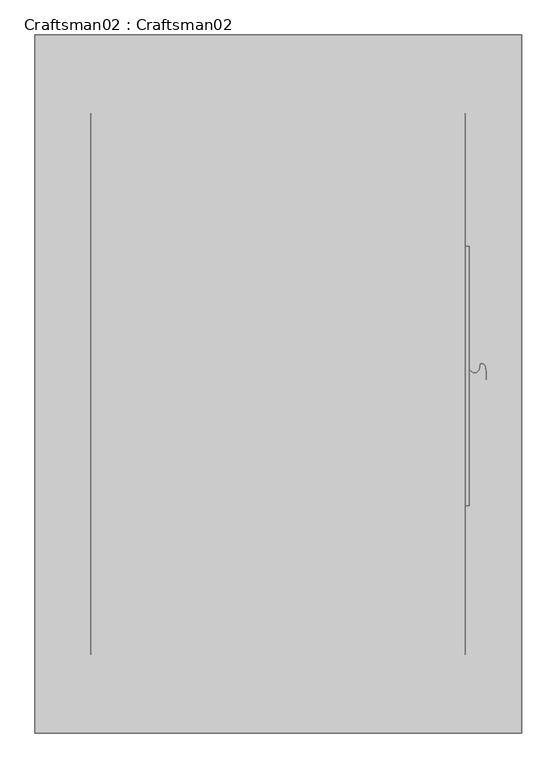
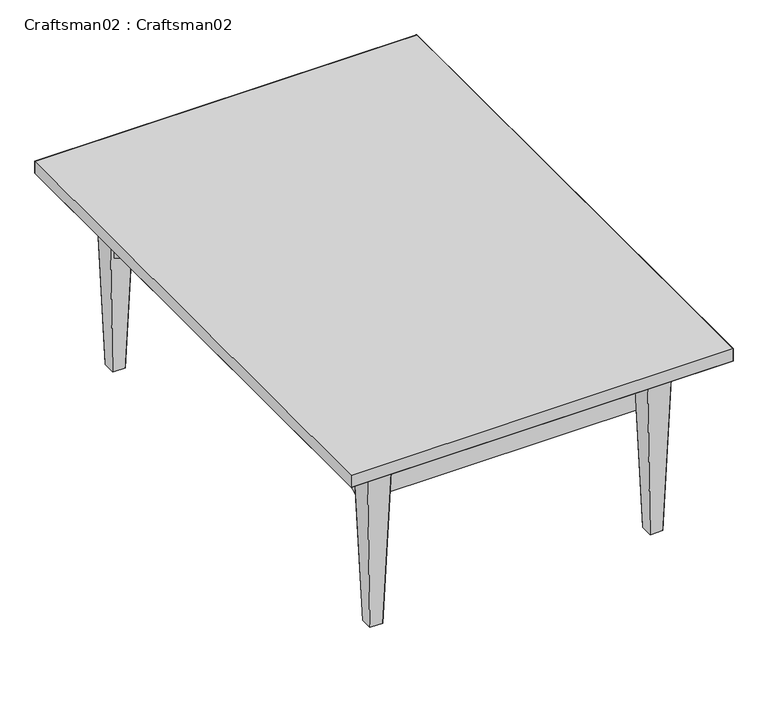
"""IFC4 building model written with IfcOpenShell, lengths in millimetres: furniture geometry, Craftsman02 : Craftsman02."""

from ifc_helpers import new_model, si_unit, origin, place, context, project, spatial, triangles, source, transform, mapped, element, save


def craftsman02_craftsman02_3f7232b6(model_context):
    return source(origin(), model_context, "Body", "Tessellation", [
        triangles([(704.85, 550.0985084, 334.0741579), (711.1999758, 554.4492602, 332.1371032), (720.7249758, 549.2750121, 330.2000121), (720.7249758, 550.0985084, 334.0741579), (727.0750242, 541.3969319, 337.94834), (722.3125242, 539.7500121, 330.2000121), (730.2499758, 544.2974453, 336.6569581), (731.8375242, 552.9989854, 332.782776), (731.8375242, 552.45, 330.2000121), (704.85, 552.4265639, 337.2784318), (715.9624758, 554.4492602, 332.1371032), (715.9624758, 555.613288, 333.739222), (722.3125242, 541.3969319, 337.94834), (730.2499758, 548.17755, 341.9974025), (731.8375242, 554.5510345, 334.9189828), (711.1999758, 557.3282996, 334.7293868), (711.1999758, 555.613288, 333.739222), (704.85, 555.8566235, 339.2588342), (715.9624758, 557.3282996, 334.7293868), (720.7249758, 552.4265639, 337.2784318), (727.0750242, 546.0530431, 344.3569242), (722.3125242, 546.0530431, 344.3569242), (727.0750242, 552.9132348, 348.3176199), (704.85, 559.7956272, 339.6728351), (720.7249758, 555.8566235, 339.2588342), (722.3125242, 552.9132348, 348.3176199), (720.7249758, 559.7956272, 339.6728351), (727.0750242, 560.7912423, 349.145658), (731.8375242, 556.8377772, 336.2392147), (730.2499758, 553.8943522, 345.2980004), (711.1999758, 559.2978378, 334.9364236), (715.9624758, 559.2978378, 334.9364236), (722.3125242, 560.7912423, 349.145658), (720.7249758, 563.5625121, 338.4488909), (727.0750242, 568.3250121, 346.6977696), (730.2499758, 560.4593948, 345.9880383), (731.8375242, 559.4637797, 336.5152153), (731.8375242, 561.975, 335.6992404), (704.85, 563.5625121, 338.4488909), (715.9624758, 561.1812621, 334.3244697), (711.1999758, 561.1812621, 334.3244697), (720.7249758, 566.5058644, 335.7986529), (722.3125242, 568.3250121, 346.6977696), (730.2499758, 566.7375, 343.9481555), (704.85, 566.5058644, 335.7986529), (711.1999758, 562.6529746, 332.9993325), (715.9624758, 562.6529746, 332.9993325), (715.9624758, 563.4584487, 331.190177), (722.3125242, 577.4336858, 334.1607079), (727.0750242, 574.2117531, 341.3972938), (722.3125242, 574.2117531, 341.3972938), (730.2499758, 571.6431599, 339.5310923), (731.8375242, 563.9372349, 333.9324151), (711.1999758, 563.4584487, 329.2098109), (704.85, 568.1168853, 332.1803418), (711.1999758, 563.4584487, 331.190177), (720.7249758, 568.1168853, 332.1803418), (727.0750242, 577.4336858, 326.23928), (727.0750242, 577.4336858, 334.1607079), (730.2499758, 574.3280614, 333.5006101), (731.8375242, 565.0112609, 331.520244), (704.85, 568.1168853, 328.2196461), (715.9624758, 563.4584487, 329.2098109), (715.9624758, 562.6529746, 327.4006917), (720.7249758, 566.5058644, 324.601335), (722.3125242, 577.4336858, 326.23928), (720.7249758, 568.1168853, 328.2196461), (722.3125242, 574.2117531, 319.0026941), (727.0750242, 574.2117531, 319.0026941), (730.2499758, 574.3280614, 326.8994142), (730.2499758, 571.6431599, 320.8688956), (731.8375242, 565.0112609, 328.8797439), (731.8375242, 563.9372349, 326.4675728), (704.85, 566.5058644, 324.601335), (711.1999758, 562.6529746, 327.4006917), (720.7249758, 563.5625121, 321.951097), (730.2499758, 566.7375, 316.4518687), (731.8375242, 561.975, 324.7007475), (711.1999758, 559.2978378, 325.4636006), (704.85, 559.7956272, 320.7271892), (704.85, 563.5625121, 321.951097), (715.9624758, 561.1812621, 326.0755546), (711.1999758, 561.1812621, 326.0755546), (715.9624758, 559.2978378, 325.4636006), (722.3125242, 560.7912423, 311.2543662), (727.0750242, 568.3250121, 313.7022182), (722.3125242, 568.3250121, 313.7022182), (711.1999758, 557.3282996, 325.6706011), (704.85, 555.8566235, 321.1411901), (720.7249758, 559.7956272, 320.7271892), (722.3125242, 552.9132348, 312.082368), (727.0750242, 560.7912423, 311.2543662), (730.2499758, 560.4593948, 314.4119496), (730.2499758, 553.8943522, 315.1019875), (731.8375242, 559.4637797, 323.8847726), (715.9624758, 557.3282996, 325.6706011), (720.7249758, 555.8566235, 321.1411901), (715.9624758, 555.613288, 326.6607659), (722.3125242, 546.0530431, 316.0431001), (727.0750242, 552.9132348, 312.082368), (727.0750242, 546.0530431, 316.0431001), (731.8375242, 556.8377772, 324.1607732), (711.1999758, 554.4492602, 328.262921), (704.85, 552.4265639, 323.1215561), (704.85, 550.0985084, 326.32583), (711.1999758, 555.613288, 326.6607659), (720.7249758, 552.4265639, 323.1215561), (715.9624758, 554.4492602, 328.262921), (722.3125242, 541.3969319, 322.4516479), (720.7249758, 550.0985084, 326.32583), (730.2499758, 548.17755, 318.4025854), (730.2499758, 544.2974453, 323.7430661), (731.8375242, 554.5510345, 325.4810414), (731.8375242, 558.8000121, 330.2000121), (711.1999758, 554.0375121, 330.2000121), (704.85, 549.2750121, 330.2000121), (715.9624758, 554.0375121, 330.2000121), (727.0750242, 539.7500121, 330.2000121), (730.2499758, 542.925, 330.2000121), (727.0750242, 541.3969319, 322.4516479), (731.8375242, 552.9989854, 327.6172119)], [[1, 115, 2], [1, 116, 115], [115, 117, 11], [11, 2, 115], [11, 3, 4], [11, 117, 3], [4, 6, 13], [4, 3, 6], [6, 118, 5], [5, 13, 6], [5, 119, 7], [5, 118, 119], [7, 9, 8], [7, 119, 9], [114, 8, 9], [10, 2, 17], [10, 1, 2], [2, 11, 12], [12, 17, 2], [12, 4, 20], [12, 11, 4], [20, 13, 22], [20, 4, 13], [13, 5, 21], [21, 22, 13], [21, 7, 14], [21, 5, 7], [14, 8, 15], [14, 7, 8], [114, 15, 8], [18, 17, 16], [18, 10, 17], [17, 12, 19], [19, 16, 17], [19, 20, 25], [19, 12, 20], [25, 22, 26], [25, 20, 22], [22, 21, 23], [23, 26, 22], [23, 14, 30], [23, 21, 14], [29, 14, 15], [29, 30, 14], [114, 29, 15], [24, 16, 31], [24, 18, 16], [16, 19, 32], [32, 31, 16], [32, 25, 27], [32, 19, 25], [25, 26, 33], [33, 27, 25], [26, 23, 28], [28, 33, 26], [36, 23, 30], [36, 28, 23], [36, 29, 37], [36, 30, 29], [114, 37, 29], [39, 31, 41], [39, 24, 31], [31, 32, 40], [40, 41, 31], [40, 27, 34], [40, 32, 27], [34, 33, 43], [34, 27, 33], [33, 28, 35], [35, 43, 33], [35, 36, 44], [35, 28, 36], [38, 36, 37], [38, 44, 36], [114, 38, 37], [45, 41, 46], [45, 39, 41], [41, 40, 47], [47, 46, 41], [47, 34, 42], [47, 40, 34], [42, 43, 51], [42, 34, 43], [43, 35, 50], [50, 51, 43], [50, 44, 52], [50, 35, 44], [52, 38, 53], [52, 44, 38], [114, 53, 38], [55, 46, 56], [55, 45, 46], [46, 47, 48], [48, 56, 46], [57, 47, 42], [57, 48, 47], [49, 42, 51], [49, 57, 42], [51, 50, 59], [59, 49, 51], [59, 52, 60], [59, 50, 52], [60, 53, 61], [60, 52, 53], [114, 61, 53], [62, 56, 54], [62, 55, 56], [56, 48, 63], [63, 54, 56], [67, 48, 57], [67, 63, 48], [67, 49, 66], [67, 57, 49], [49, 59, 58], [58, 66, 49], [58, 60, 70], [58, 59, 60], [70, 61, 72], [70, 60, 61], [114, 72, 61], [74, 54, 75], [74, 62, 54], [54, 63, 64], [64, 75, 54], [64, 67, 65], [64, 63, 67], [65, 66, 68], [65, 67, 66], [66, 58, 69], [69, 68, 66], [71, 58, 70], [71, 69, 58], [73, 70, 72], [73, 71, 70], [114, 73, 72], [83, 74, 75], [83, 81, 74], [75, 64, 82], [82, 83, 75], [82, 65, 76], [82, 64, 65], [87, 65, 68], [87, 76, 65], [68, 69, 86], [86, 87, 68], [86, 71, 77], [86, 69, 71], [77, 73, 78], [77, 71, 73], [114, 78, 73], [80, 83, 79], [80, 81, 83], [83, 82, 84], [84, 79, 83], [90, 82, 76], [90, 84, 82], [85, 76, 87], [85, 90, 76], [87, 86, 92], [92, 85, 87], [93, 86, 77], [93, 92, 86], [93, 78, 95], [93, 77, 78], [114, 95, 78], [88, 80, 79], [88, 89, 80], [79, 84, 96], [96, 88, 79], [96, 90, 97], [96, 84, 90], [90, 85, 91], [91, 97, 90], [85, 92, 100], [100, 91, 85], [100, 93, 94], [100, 92, 93], [102, 93, 95], [102, 94, 93], [114, 102, 95], [104, 88, 106], [104, 89, 88], [88, 96, 98], [98, 106, 88], [98, 97, 107], [98, 96, 97], [99, 97, 91], [99, 107, 97], [91, 100, 101], [101, 99, 91], [101, 94, 111], [101, 100, 94], [111, 102, 113], [111, 94, 102], [114, 113, 102], [103, 104, 106], [103, 105, 104], [106, 98, 108], [108, 103, 106], [108, 107, 110], [108, 98, 107], [109, 107, 99], [109, 110, 107], [99, 101, 120], [120, 109, 99], [112, 101, 111], [112, 120, 101], [112, 113, 121], [112, 111, 113], [114, 121, 113], [116, 103, 115], [116, 105, 103], [103, 108, 117], [117, 115, 103], [3, 108, 110], [3, 117, 108], [6, 110, 109], [6, 3, 110], [109, 120, 118], [118, 6, 109], [119, 120, 112], [119, 118, 120], [119, 121, 9], [119, 112, 121], [114, 9, 121]], closed=False),
        triangles([(787.3999758, 0.0, 406.4000121), (787.3999758, 1092.1999758, 406.4000121), (787.3999758, 1092.1999758, 381.0), (787.3999758, 0.0, 381.0), (25.4000008, 1092.1999758, 406.4000121), (25.4000008, 1092.1999758, 381.0), (25.4000008, 0.0, 381.0), (25.4000008, 0.0, 406.4000121), (704.85, 355.5999879, 301.6249939), (704.85, 762.0, 301.6249939), (704.85, 762.0, 361.95), (704.85, 355.5999879, 361.95)], [[3, 2, 1], [1, 4, 3], [6, 5, 8], [8, 7, 6], [10, 11, 9], [12, 9, 11]], closed=False),
        triangles([(698.5000242, 126.999997, 381.0), (698.5000242, 762.0, 361.95), (698.5000242, 327.0249879, 279.4000061), (698.5000242, 355.5999879, 361.95), (698.5000242, 355.5999879, 301.6249939), (698.5000242, 762.0, 301.6249939), (698.5000242, 790.575, 279.4000061), (698.5000242, 969.7125395, 245.6233977), (698.5000242, 946.1500242, 260.3500061), (698.5000242, 914.4, 269.8750061), (698.5000242, 866.775, 276.225), (698.5000242, 965.2000242, 381.0), (112.712497, 250.8250061, 276.225), (112.712497, 866.775, 276.225), (112.712497, 914.4, 269.8750061), (112.712497, 946.1500242, 260.3500061), (112.712497, 969.7125395, 245.6233977), (112.712497, 965.2000242, 381.0), (112.712497, 126.999997, 381.0), (112.712497, 790.575, 279.4000061), (112.712497, 327.0249879, 279.4000061), (698.5000242, 146.049997, 257.175), (698.5000242, 122.4874454, 245.6233977), (112.712497, 122.4874454, 245.6233977), (698.5000242, 250.8250061, 276.225), (698.5000242, 203.2000061, 271.4625), (112.712497, 203.2000061, 271.4625), (112.712497, 146.049997, 257.175)], [[2, 12, 1], [1, 4, 2], [6, 5, 3], [3, 7, 6], [3, 4, 1], [3, 5, 4], [1, 25, 3], [2, 6, 12], [7, 12, 6], [11, 12, 7], [12, 9, 8], [12, 10, 9], [12, 11, 10], [19, 13, 21], [14, 18, 20], [18, 14, 15], [18, 15, 16], [18, 16, 17], [21, 18, 19], [21, 20, 18], [1, 23, 22], [19, 24, 28], [19, 27, 13], [1, 26, 25], [1, 22, 26], [19, 28, 27]], closed=False),
        triangles([(711.1999758, 126.999997, 381.0), (698.5000242, 114.3, 0.0), (698.5000242, 88.899997, 0.0), (711.1999758, 76.2, 381.0), (698.5000242, 977.8999758, 0.0), (698.5000242, 1003.3000242, 0.0), (711.1999758, 1015.9999758, 381.0), (711.1999758, 965.2000242, 381.0), (673.0999758, 977.8999758, 0.0), (673.0999758, 1003.3000242, 0.0), (660.4000242, 1015.9999758, 381.0), (660.4000242, 965.2000242, 381.0), (660.4000242, 126.999997, 381.0), (673.0999758, 114.3, 0.0), (673.0999758, 88.899997, 0.0), (660.4000242, 76.2, 381.0), (152.4, 126.999997, 381.0), (139.700003, 114.3, 0.0), (139.700003, 88.899997, 0.0), (152.4, 76.2, 381.0), (139.700003, 977.8999758, 0.0), (139.700003, 1003.3000242, 0.0), (152.4, 1015.9999758, 381.0), (152.4, 965.2000242, 381.0), (114.3, 977.8999758, 0.0), (114.3, 1003.3000242, 0.0), (101.600003, 1015.9999758, 381.0), (101.600003, 965.2000242, 381.0), (101.600003, 126.999997, 381.0), (114.3, 114.3, 0.0), (114.3, 88.899997, 0.0), (101.600003, 76.2, 381.0)], [[2, 1, 4], [4, 3, 2], [5, 6, 8], [7, 8, 6], [9, 10, 12], [11, 12, 10], [14, 13, 16], [16, 15, 14], [18, 17, 20], [20, 19, 18], [21, 22, 24], [23, 24, 22], [25, 26, 28], [27, 28, 26], [30, 29, 32], [32, 31, 30]], closed=False),
        triangles([(787.3999758, 0.0, 406.4000121), (787.3999758, 0.0, 381.0), (25.4000008, 0.0, 381.0), (25.4000008, 0.0, 406.4000121), (787.3999758, 1092.1999758, 406.4000121), (25.4000008, 1092.1999758, 406.4000121), (25.4000008, 1092.1999758, 381.0), (787.3999758, 1092.1999758, 381.0), (698.5000242, 969.7125395, 245.6233977), (112.712497, 969.7125395, 245.6233977), (112.712497, 965.2000242, 381.0), (698.5000242, 965.2000242, 381.0), (698.5000242, 126.999997, 381.0), (112.712497, 126.999997, 381.0), (112.712497, 122.4874454, 245.6233977), (698.5000242, 122.4874454, 245.6233977)], [[2, 3, 1], [4, 1, 3], [6, 7, 5], [8, 5, 7], [11, 10, 9], [9, 12, 11], [15, 14, 13], [13, 16, 15]], closed=False),
        triangles([(698.5000242, 1003.3000242, 0.0), (673.0999758, 1003.3000242, 0.0), (660.4000242, 1015.9999758, 381.0), (711.1999758, 1015.9999758, 381.0), (698.5000242, 977.8999758, 0.0), (711.1999758, 965.2000242, 381.0), (660.4000242, 965.2000242, 381.0), (673.0999758, 977.8999758, 0.0), (139.700003, 977.8999758, 0.0), (152.4, 965.2000242, 381.0), (101.600003, 965.2000242, 381.0), (114.3, 977.8999758, 0.0), (139.700003, 1003.3000242, 0.0), (114.3, 1003.3000242, 0.0), (101.600003, 1015.9999758, 381.0), (152.4, 1015.9999758, 381.0), (711.1999758, 126.999997, 381.0), (698.5000242, 114.3, 0.0), (673.0999758, 114.3, 0.0), (660.4000242, 126.999997, 381.0), (711.1999758, 76.2, 381.0), (660.4000242, 76.2, 381.0), (673.0999758, 88.899997, 0.0), (698.5000242, 88.899997, 0.0), (152.4, 126.999997, 381.0), (139.700003, 114.3, 0.0), (114.3, 114.3, 0.0), (101.600003, 126.999997, 381.0), (139.700003, 88.899997, 0.0), (152.4, 76.2, 381.0), (101.600003, 76.2, 381.0), (114.3, 88.899997, 0.0), (704.85, 355.5999879, 301.6249939), (704.85, 355.5999879, 361.95), (698.5000242, 355.5999879, 361.95), (698.5000242, 355.5999879, 301.6249939), (704.85, 762.0, 301.6249939), (704.85, 762.0, 361.95), (698.5000242, 762.0, 361.95), (698.5000242, 762.0, 301.6249939)], [[2, 1, 4], [4, 3, 2], [6, 7, 5], [8, 5, 7], [10, 11, 9], [12, 9, 11], [14, 13, 16], [16, 15, 14], [18, 19, 17], [20, 17, 19], [22, 21, 24], [24, 23, 22], [26, 27, 25], [28, 25, 27], [31, 30, 29], [29, 32, 31], [35, 34, 33], [33, 36, 35], [38, 39, 37], [40, 37, 39]], closed=False),
        triangles([(25.4000008, 1092.1999758, 406.4000121), (787.3999758, 1092.1999758, 406.4000121), (787.3999758, 0.0, 406.4000121), (25.4000008, 0.0, 406.4000121), (25.4000008, 1092.1999758, 381.0), (787.3999758, 1092.1999758, 381.0), (787.3999758, 0.0, 381.0), (25.4000008, 0.0, 381.0)], [[1, 2, 4], [3, 4, 2], [5, 6, 8], [7, 8, 6]], closed=False),
        triangles([(704.85, 762.0, 361.95), (698.5000242, 762.0, 361.95), (698.5000242, 355.5999879, 361.95), (704.85, 355.5999879, 361.95), (704.85, 762.0, 301.6249939), (698.5000242, 762.0, 301.6249939), (698.5000242, 355.5999879, 301.6249939), (704.85, 355.5999879, 301.6249939), (112.712497, 866.775, 276.225), (138.1125, 790.575, 279.4000061), (673.0999758, 790.575, 279.4000061), (673.0999758, 866.775, 276.225), (698.5000242, 790.575, 279.4000061), (112.712497, 327.0249879, 279.4000061), (138.1125, 327.0249879, 279.4000061), (138.1125, 250.8250061, 276.225), (673.0999758, 250.8250061, 276.225), (698.5000242, 327.0249879, 279.4000061), (673.0999758, 327.0249879, 279.4000061), (112.712497, 790.575, 279.4000061), (673.0999758, 946.1500242, 260.3500061), (698.5000242, 946.1500242, 260.3500061), (112.712497, 914.4, 269.8750061), (112.712497, 946.1500242, 260.3500061), (138.1125, 914.4, 269.8750061), (673.0999758, 203.2000061, 271.4625), (673.0999758, 146.049997, 257.175), (138.1125, 146.049997, 257.175), (698.5000242, 146.049997, 257.175), (673.0999758, 122.4874454, 245.6233977), (698.5000242, 122.4874454, 245.6233977), (138.1125, 122.4874454, 245.6233977), (112.712497, 146.049997, 257.175), (112.712497, 122.4874454, 245.6233977), (698.5000242, 969.7125395, 245.6233977), (673.0999758, 969.7125395, 245.6233977), (138.1125, 946.1500242, 260.3500061), (138.1125, 969.7125395, 245.6233977), (112.712497, 969.7125395, 245.6233977), (698.5000242, 250.8250061, 276.225), (698.5000242, 203.2000061, 271.4625), (138.1125, 203.2000061, 271.4625), (112.712497, 250.8250061, 276.225), (112.712497, 203.2000061, 271.4625), (698.5000242, 866.775, 276.225), (698.5000242, 914.4, 269.8750061), (673.0999758, 914.4, 269.8750061), (138.1125, 866.775, 276.225)], [[2, 1, 4], [4, 3, 2], [6, 5, 8], [8, 7, 6], [9, 48, 20], [10, 20, 48], [12, 45, 11], [13, 11, 45], [14, 15, 43], [16, 43, 15], [19, 18, 17], [40, 17, 18], [11, 13, 18], [18, 19, 11], [20, 10, 15], [15, 14, 20], [21, 22, 47], [46, 47, 22], [24, 37, 23], [25, 23, 37], [26, 41, 27], [29, 27, 41], [44, 42, 33], [28, 33, 42], [27, 29, 31], [31, 30, 27], [33, 28, 32], [32, 34, 33], [36, 35, 22], [22, 21, 36], [39, 38, 37], [37, 24, 39], [17, 40, 41], [41, 26, 17], [43, 16, 42], [42, 44, 43], [47, 46, 45], [45, 12, 47], [23, 25, 48], [48, 9, 23]], closed=False),
    ])


if __name__ == "__main__":
    model = new_model("IFC4")
    model_context = context("Model", 3, world=origin())
    ifc_project = project(units=[si_unit("LENGTHUNIT", "METRE", prefix="MILLI")], contexts=[model_context])
    site = spatial("IfcSite", under=ifc_project)
    building = spatial("IfcBuilding", under=site)
    placement = place(None, origin())
    craftsman02_craftsman02_shape = craftsman02_craftsman02_3f7232b6(model_context)
    element("IfcFurniture", 1, ObjectType="Craftsman02 : Craftsman02", at=placement, inside=building, context=model_context, shape_type="MappedRepresentation", body=[
        mapped(craftsman02_craftsman02_shape, transform((0.0, 0.0, 0.0), x_axis=(1.0, 0.0, 0.0), y_axis=(0.0, 1.0, 0.0), z_axis=(0.0, 0.0, 1.0))),
    ])
    save(model, "model.ifc")
